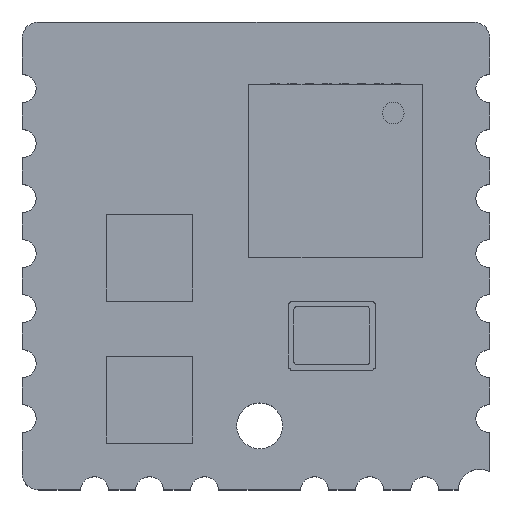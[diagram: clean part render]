
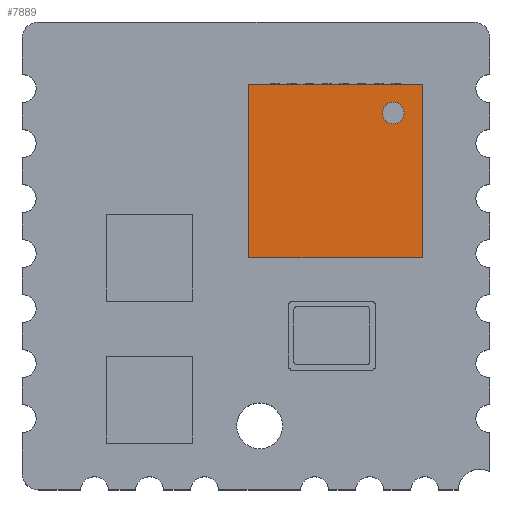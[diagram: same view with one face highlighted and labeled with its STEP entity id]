
A CAD part, top view. The second image highlights one B-rep face of the part: STEP entity #7889.
In plain terms, the highlighted planar face has unit normal (0, 0, 1).
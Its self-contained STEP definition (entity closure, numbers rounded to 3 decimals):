
#40=FACE_BOUND('',#953,.T.);
#96=CIRCLE('',#8333,0.25);
#539=FACE_OUTER_BOUND('',#952,.T.);
#952=EDGE_LOOP('',(#6500,#6501,#6502,#6503));
#953=EDGE_LOOP('',(#6504));
#1131=LINE('',#10659,#2176);
#1350=LINE('',#11089,#2395);
#1584=LINE('',#11549,#2629);
#1803=LINE('',#11978,#2848);
#2176=VECTOR('',#8638,1.);
#2395=VECTOR('',#9019,1.);
#2629=VECTOR('',#9425,1.);
#2848=VECTOR('',#9806,1.);
#3202=VERTEX_POINT('',#10656);
#3203=VERTEX_POINT('',#10658);
#3333=VERTEX_POINT('',#11088);
#3473=VERTEX_POINT('',#11548);
#3715=VERTEX_POINT('',#12352);
#3915=EDGE_CURVE('',#3203,#3202,#1131,.T.);
#4134=EDGE_CURVE('',#3203,#3333,#1350,.T.);
#4368=EDGE_CURVE('',#3333,#3473,#1584,.T.);
#4587=EDGE_CURVE('',#3202,#3473,#1803,.T.);
#4778=EDGE_CURVE('',#3715,#3715,#96,.T.);
#6500=ORIENTED_EDGE('',*,*,#4134,.F.);
#6501=ORIENTED_EDGE('',*,*,#3915,.T.);
#6502=ORIENTED_EDGE('',*,*,#4587,.T.);
#6503=ORIENTED_EDGE('',*,*,#4368,.F.);
#6504=ORIENTED_EDGE('',*,*,#4778,.F.);
#7503=PLANE('',#8332);
#7889=ADVANCED_FACE('',(#539,#40),#7503,.T.);
#8332=AXIS2_PLACEMENT_3D('',#12351,#10137,#10138);
#8333=AXIS2_PLACEMENT_3D('',#12353,#10139,#10140);
#8638=DIRECTION('',(0.,-1.,0.));
#9019=DIRECTION('',(1.,0.,0.));
#9425=DIRECTION('',(0.,-1.,0.));
#9806=DIRECTION('',(1.,0.,0.));
#10137=DIRECTION('center_axis',(0.,0.,1.));
#10138=DIRECTION('ref_axis',(0.,-1.,0.));
#10139=DIRECTION('center_axis',(0.,0.,1.));
#10140=DIRECTION('ref_axis',(0.,-1.,0.));
#10656=CARTESIAN_POINT('',(9.836,9.963,1.911));
#10658=CARTESIAN_POINT('',(9.836,13.963,1.911));
#10659=CARTESIAN_POINT('',(9.836,13.963,1.911));
#11088=CARTESIAN_POINT('',(13.836,13.963,1.911));
#11089=CARTESIAN_POINT('',(9.836,13.963,1.911));
#11548=CARTESIAN_POINT('',(13.836,9.963,1.911));
#11549=CARTESIAN_POINT('',(13.836,13.963,1.911));
#11978=CARTESIAN_POINT('',(9.836,9.963,1.911));
#12351=CARTESIAN_POINT('Origin',(9.836,13.963,1.911));
#12352=CARTESIAN_POINT('',(13.17,13.547,1.911));
#12353=CARTESIAN_POINT('Origin',(13.17,13.297,1.911));
